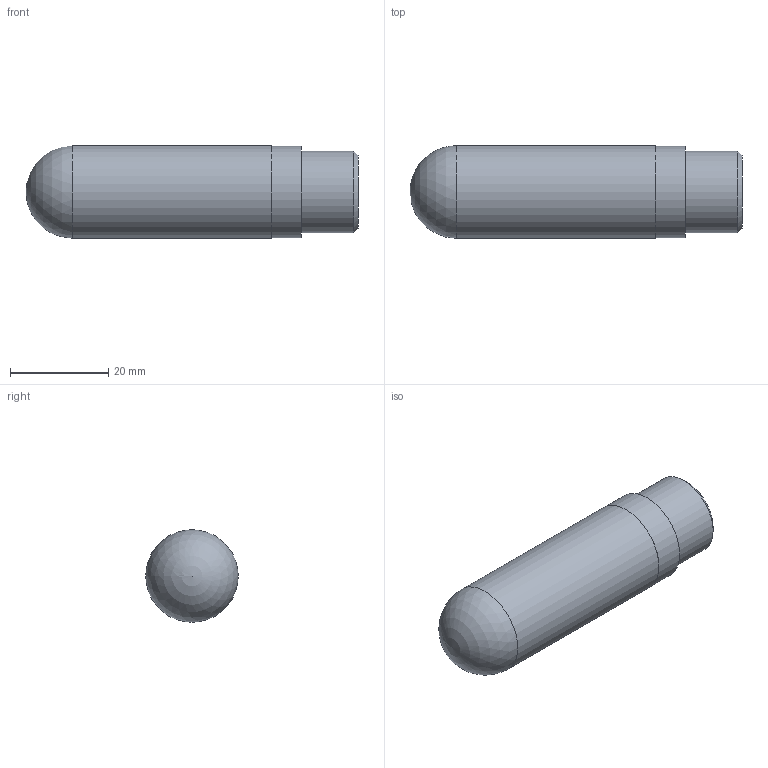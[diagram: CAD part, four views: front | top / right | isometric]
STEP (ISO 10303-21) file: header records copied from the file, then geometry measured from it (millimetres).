
FILE_DESCRIPTION(/* description */ ('STEP AP203'),/* implementation_level */ '2;1');
FILE_NAME(/* name */ '2928 3_8',/* time_stamp */ '2023-04-06T15:03:45+02:00',/* author */ ('License CC BY-ND 4.0'),/* organization */ ('CADENAS'),/* preprocessor_version */ 'ST-DEVELOPER v19.3',/* originating_system */ 'PARTsolutions',/* authorisation */ ' ');
FILE_SCHEMA (('CONFIG_CONTROL_DESIGN'));
Length unit declared in the file: millimetre
Products named in the file (1): 2928 3/8
Bounding box: 67.5 x 18.8 x 18.8 mm (x, y, z)
Volume: 17146.6 mm3; surface area: 4157.9 mm2
Topology: 1 solids, 1 shells, 8 faces, 13 edges, 8 vertices
Faces by surface type: cylinder 3, plane 3, sphere 1, cone 1
Full cylindrical faces by diameter (mm): 16.662 x1, 18.7 x1, 18.8 x1
Entity records: 184 total; most frequent: DIRECTION 32, CARTESIAN_POINT 23, AXIS2_PLACEMENT_3D 16, ORIENTED_EDGE 14, EDGE_LOOP 14, FACE_BOUND 14, ADVANCED_FACE 8, EDGE_CURVE 7
